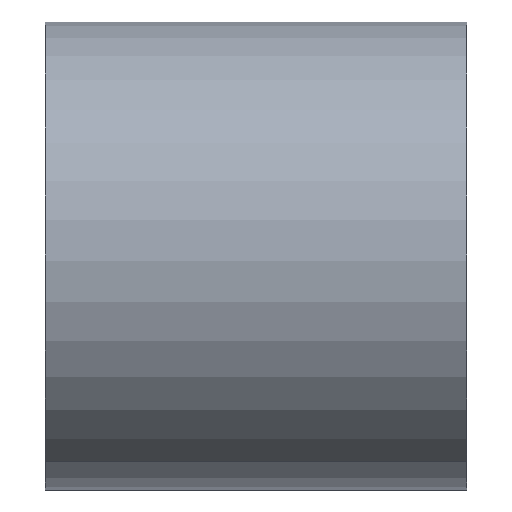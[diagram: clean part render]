
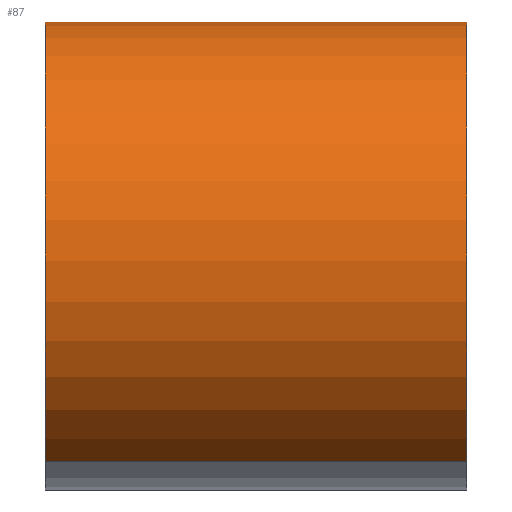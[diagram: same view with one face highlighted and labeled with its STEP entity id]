
A CAD part, top view. The second image highlights one B-rep face of the part: STEP entity #87.
In plain terms, the highlighted cylindrical face has radius 5 mm (diameter 10 mm), a partial arc.
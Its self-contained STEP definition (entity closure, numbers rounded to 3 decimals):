
#31=CARTESIAN_POINT('Axis2P3D Location',(0.,0.,0.)) ;
#36=CARTESIAN_POINT('Line Origine',(0.,-4.388,2.397)) ;
#40=CARTESIAN_POINT('Vertex',(4.5,-4.388,2.397)) ;
#42=CARTESIAN_POINT('Vertex',(-4.5,-4.388,2.397)) ;
#49=CARTESIAN_POINT('Vertex',(-4.5,4.388,-2.397)) ;
#52=CARTESIAN_POINT('Line Origine',(0.,4.388,-2.397)) ;
#56=CARTESIAN_POINT('Vertex',(4.5,4.388,-2.397)) ;
#71=CARTESIAN_POINT('Axis2P3D Location',(-4.5,0.,0.)) ;
#76=CARTESIAN_POINT('Axis2P3D Location',(4.5,0.,0.)) ;
#38=VECTOR('Line Direction',#37,1.) ;
#54=VECTOR('Line Direction',#53,1.) ;
#32=DIRECTION('Axis2P3D Direction',(-1.,0.,0.)) ;
#33=DIRECTION('Axis2P3D XDirection',(-0.,-0.878,0.479)) ;
#37=DIRECTION('Vector Direction',(-1.,0.,0.)) ;
#53=DIRECTION('Vector Direction',(-1.,0.,0.)) ;
#72=DIRECTION('Axis2P3D Direction',(-1.,0.,0.)) ;
#77=DIRECTION('Axis2P3D Direction',(-1.,0.,0.)) ;
#34=AXIS2_PLACEMENT_3D('Cylinder Axis2P3D',#31,#32,#33) ;
#73=AXIS2_PLACEMENT_3D('Circle Axis2P3D',#71,#72,$) ;
#78=AXIS2_PLACEMENT_3D('Circle Axis2P3D',#76,#77,$) ;
#39=LINE('Line',#36,#38) ;
#55=LINE('Line',#52,#54) ;
#74=CIRCLE('generated circle',#73,5.) ;
#79=CIRCLE('generated circle',#78,5.) ;
#35=CYLINDRICAL_SURFACE('generated cylinder',#34,5.) ;
#44=EDGE_CURVE('',#41,#43,#39,.T.) ;
#58=EDGE_CURVE('',#57,#50,#55,.T.) ;
#75=EDGE_CURVE('',#43,#50,#74,.T.) ;
#80=EDGE_CURVE('',#41,#57,#79,.T.) ;
#82=ORIENTED_EDGE('',*,*,#58,.T.) ;
#83=ORIENTED_EDGE('',*,*,#75,.F.) ;
#84=ORIENTED_EDGE('',*,*,#44,.F.) ;
#85=ORIENTED_EDGE('',*,*,#80,.T.) ;
#81=EDGE_LOOP('',(#82,#83,#84,#85)) ;
#41=VERTEX_POINT('',#40) ;
#43=VERTEX_POINT('',#42) ;
#50=VERTEX_POINT('',#49) ;
#57=VERTEX_POINT('',#56) ;
#87=ADVANCED_FACE('Body.2',(#86),#35,.T.) ;
#86=FACE_OUTER_BOUND('',#81,.T.) ;
